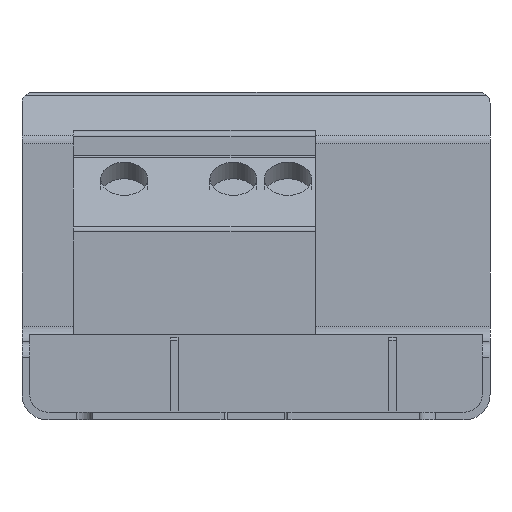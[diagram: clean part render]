
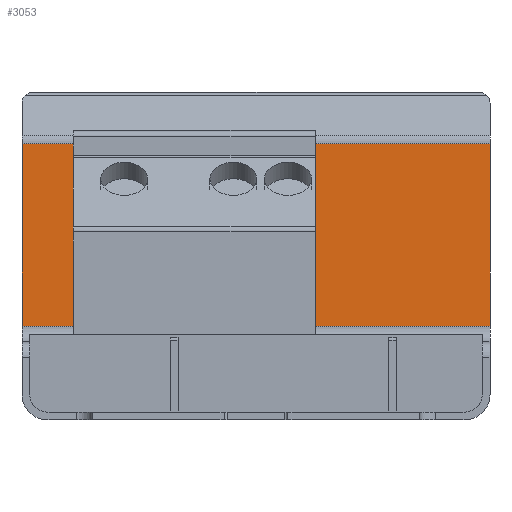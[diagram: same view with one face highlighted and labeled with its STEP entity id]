
A CAD part, front view. The second image highlights one B-rep face of the part: STEP entity #3053.
In plain terms, the highlighted planar face has unit normal (0, -1, 0).
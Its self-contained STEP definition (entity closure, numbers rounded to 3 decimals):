
#174=DIRECTION('',(-1.,0.,0.));
#175=VECTOR('',#174,30.);
#176=CARTESIAN_POINT('',(-51.313,10.946,44.183));
#177=LINE('',#176,#175);
#927=DIRECTION('',(0.,0.,-1.));
#928=VECTOR('',#927,11.71);
#929=CARTESIAN_POINT('',(-81.313,10.946,55.893));
#930=LINE('',#929,#928);
#931=DIRECTION('',(0.,0.,1.));
#932=VECTOR('',#931,11.71);
#933=CARTESIAN_POINT('',(-51.313,10.946,44.183));
#934=LINE('',#933,#932);
#935=DIRECTION('',(-1.,0.,0.));
#936=VECTOR('',#935,30.);
#937=CARTESIAN_POINT('',(-51.313,10.946,55.893));
#938=LINE('',#937,#936);
#1518=CARTESIAN_POINT('',(-51.313,10.946,44.183));
#1519=VERTEX_POINT('',#1518);
#1520=CARTESIAN_POINT('',(-81.313,10.946,44.183));
#1521=VERTEX_POINT('',#1520);
#1552=CARTESIAN_POINT('',(-81.313,10.946,55.893));
#1553=VERTEX_POINT('',#1552);
#1728=CARTESIAN_POINT('',(-51.313,10.946,55.893));
#1729=VERTEX_POINT('',#1728);
#3041=CARTESIAN_POINT('',(-66.313,10.946,50.038));
#3042=DIRECTION('',(0.,1.,0.));
#3043=DIRECTION('',(0.,0.,1.));
#3044=AXIS2_PLACEMENT_3D('',#3041,#3042,#3043);
#3045=PLANE('',#3044);
#3046=ORIENTED_EDGE('',*,*,#2075,.T.);
#3047=ORIENTED_EDGE('',*,*,#2334,.F.);
#3049=ORIENTED_EDGE('',*,*,#3048,.F.);
#3050=ORIENTED_EDGE('',*,*,#2407,.F.);
#3051=EDGE_LOOP('',(#3046,#3047,#3049,#3050));
#3052=FACE_OUTER_BOUND('',#3051,.F.);
#3053=ADVANCED_FACE('',(#3052),#3045,.F.);
#2075=EDGE_CURVE('',#1519,#1521,#177,.T.);
#2334=EDGE_CURVE('',#1553,#1521,#930,.T.);
#2407=EDGE_CURVE('',#1519,#1729,#934,.T.);
#3048=EDGE_CURVE('',#1729,#1553,#938,.T.);
